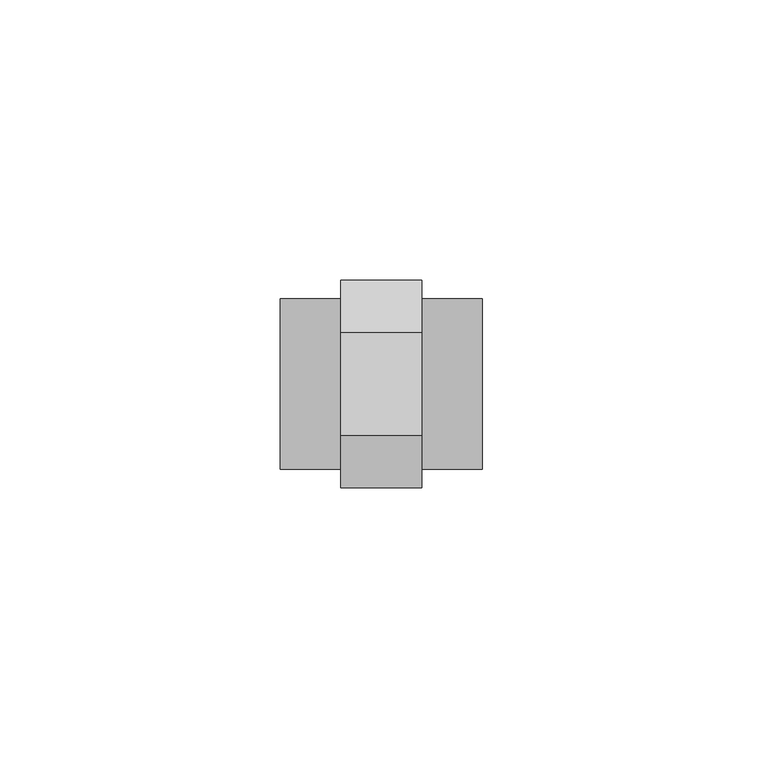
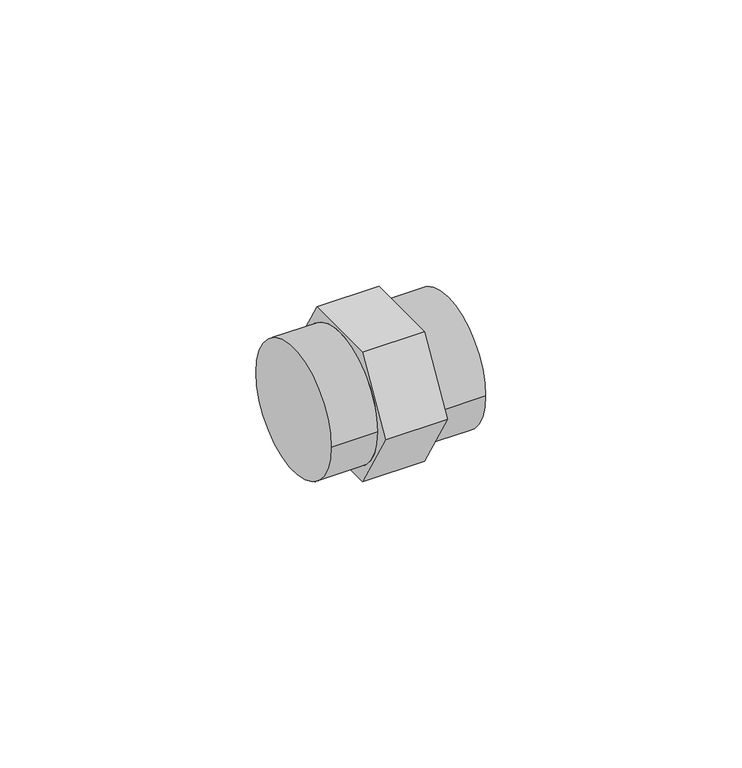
"""IFC4 building model written with IfcOpenShell, lengths in millimetres: pipe fitting geometry, 01101007 : Manchons FxF."""

import ifcopenshell
import ifcopenshell.guid

model = None  # the IFC model being written
_history = None  # IfcOwnerHistory: only IFC2X3 demands one
_inside = {}  # id of a spatial element -> (the spatial element, [elements in it])
_under = {}  # id of a project, library or spatial element -> (it, [spatial elements below it])
_declared = {}  # id of a project -> (the project, [libraries it declares])
_typed = {}  # id of a type object -> (the type object, [elements of that type])
_made_of = {}  # id of a material, layer set ... -> (it, [elements and type objects made of it])


def new_model(schema):
    """Start an empty IFC model of exactly this schema.

    Asked for "IFC4X3", IfcOpenShell would pick the latest addendum, in which some entities
    have other attributes; the version numbers below select the first issue.
    IFC2X3 requires an IfcOwnerHistory on every rooted entity: one is made here for all.
    """
    global model, _history
    if schema == "IFC4X3":
        model = ifcopenshell.file(schema_version=(4, 3, 0, 0))
    else:
        model = ifcopenshell.file(schema=schema)
    _inside.clear()
    _under.clear()
    _declared.clear()
    _typed.clear()
    _made_of.clear()
    _history = None
    if model.schema == "IFC2X3":
        org = make("IfcOrganization", Name="unknown")
        user = make(
            "IfcPersonAndOrganization",
            ThePerson=make("IfcPerson", FamilyName="unknown"),
            TheOrganization=org,
        )
        app = make(
            "IfcApplication",
            ApplicationDeveloper=org,
            Version="unknown",
            ApplicationFullName="unknown",
            ApplicationIdentifier="unknown",
        )
        _history = make(
            "IfcOwnerHistory",
            OwningUser=user,
            OwningApplication=app,
            ChangeAction="ADDED",
            CreationDate=0,
        )
    return model


def make(cls, **values):
    """One entity of the class cls with the attributes given. An attribute that is None is left unset."""
    return model.create_entity(
        cls, **{name: value for name, value in values.items() if value is not None}
    )


def rooted(cls, **values):
    """An entity with a GlobalId (a new one), such as an element, a storey or a relation."""
    return make(cls, GlobalId=ifcopenshell.guid.new(), OwnerHistory=_history, **values)


def si_unit(unit_type, name, prefix=None):
    """IfcSIUnit, for example si_unit("LENGTHUNIT", "METRE", prefix="MILLI")."""
    return make("IfcSIUnit", UnitType=unit_type, Prefix=prefix, Name=name)


def assignment(units):
    """IfcUnitAssignment: the units of a project."""
    return None if units is None else make("IfcUnitAssignment", Units=units)


def point(xyz):
    """IfcCartesianPoint."""
    return None if xyz is None else make("IfcCartesianPoint", Coordinates=xyz)


def direction(xyz):
    """IfcDirection."""
    return None if xyz is None else make("IfcDirection", DirectionRatios=xyz)


def frame(location, z_axis=None, x_axis=None):
    """IfcAxis2Placement3D, a coordinate frame: its origin and axes. An axis left out is left unset."""
    return make(
        "IfcAxis2Placement3D",
        Location=point(location),
        Axis=direction(z_axis),
        RefDirection=direction(x_axis),
    )


def origin():
    """The frame at (0, 0, 0) with its axes left unset."""
    return frame((0.0, 0.0, 0.0))


def place(relative_to, where):
    """IfcLocalPlacement: puts the frame where relative to a parent placement (None: the world)."""
    return make(
        "IfcLocalPlacement", PlacementRelTo=relative_to, RelativePlacement=where
    )


def context(
    kind, dimensions, precision=None, world=None, true_north=None, identifier=None
):
    """IfcGeometricRepresentationContext, for example the 3D "Model" context."""
    return make(
        "IfcGeometricRepresentationContext",
        ContextIdentifier=identifier,
        ContextType=kind,
        CoordinateSpaceDimension=dimensions,
        Precision=precision,
        WorldCoordinateSystem=world,
        TrueNorth=true_north,
    )


def project(units=None, contexts=None):
    """IfcProject with its units and contexts."""
    return rooted(
        "IfcProject",
        Name="project",
        RepresentationContexts=contexts,
        UnitsInContext=assignment(units),
    )


def spatial(cls, under=None, at=None, **own):
    """A site, building, storey or space (cls), placed at a placement, below another one or the project."""
    s = rooted(cls, ObjectPlacement=at, **own)
    if under is not None:
        _under.setdefault(under.id(), (under, []))[1].append(s)
    return s


def circle_curve(where, radius):
    """IfcCircle in the frame where."""
    return make("IfcCircle", Position=where, Radius=radius)


def shape(context_of_items, identifier, shape_type, items):
    """IfcShapeRepresentation: the items that make up one representation, for example the "Body"."""
    return make(
        "IfcShapeRepresentation",
        ContextOfItems=context_of_items,
        RepresentationIdentifier=identifier,
        RepresentationType=shape_type,
        Items=items,
    )


def source(mapping_origin, context_of_items, identifier, shape_type, items):
    """IfcRepresentationMap: a shape defined once, which mapped items show again and again."""
    return make(
        "IfcRepresentationMap",
        MappingOrigin=mapping_origin,
        MappedRepresentation=shape(context_of_items, identifier, shape_type, items),
    )


def transform(
    local_origin,
    x_axis=None,
    y_axis=None,
    z_axis=None,
    scale=None,
    scale2=None,
    scale3=None,
    uniform=True,
):
    """IfcCartesianTransformationOperator3D, or its non-uniform kind. x_axis, y_axis, z_axis: its Axis1, 2, 3."""
    if uniform:
        return make(
            "IfcCartesianTransformationOperator3D",
            Axis1=direction(x_axis),
            Axis2=direction(y_axis),
            LocalOrigin=point(local_origin),
            Scale=scale,
            Axis3=direction(z_axis),
        )
    return make(
        "IfcCartesianTransformationOperator3DnonUniform",
        Axis1=direction(x_axis),
        Axis2=direction(y_axis),
        LocalOrigin=point(local_origin),
        Scale=scale,
        Axis3=direction(z_axis),
        Scale2=scale2,
        Scale3=scale3,
    )


def mapped(mapping_source, mapping_target):
    """IfcMappedItem: shows the shape of a source again, moved by a transform."""
    return make(
        "IfcMappedItem", MappingSource=mapping_source, MappingTarget=mapping_target
    )


def made_of(thing, what):
    """Note that an element or type object is made of a material, layer set ...; save() writes the relation."""
    if what is not None:
        _made_of.setdefault(what.id(), (what, []))[1].append(thing)
    return thing


def element(
    cls,
    number,
    at=None,
    inside=None,
    cuts=None,
    type_object=None,
    material=None,
    context=None,
    identifier="Body",
    shape_type=None,
    held_by="IfcProductDefinitionShape",
    body=None,
    shapes=None,
    **own,
):
    """One element of the class cls, such as IfcWall. Its Tag is "e" and its number.

    at: its placement. inside: the storey or other place that contains it. cuts: it is an
    opening in that element (IfcRelVoidsElement). A single representation is given by context,
    identifier, shape_type and body (its items); several are given by shapes. held_by: the class
    of the entity that holds the representations. save() writes the other relations.
    """
    e = rooted(cls, Tag="e%d" % number, ObjectPlacement=at, **own)
    if body is not None:
        shapes = [shape(context, identifier, shape_type, body)]
    if shapes is not None:
        e.Representation = make(held_by, Representations=shapes)
    if inside is not None:
        _inside.setdefault(inside.id(), (inside, []))[1].append(e)
    if cuts is not None:
        rooted(
            "IfcRelVoidsElement", RelatingBuildingElement=cuts, RelatedOpeningElement=e
        )
    if type_object is not None:
        _typed.setdefault(type_object.id(), (type_object, []))[1].append(e)
    return made_of(e, material)


def aggregate(whole, parts):
    """IfcRelAggregates: a whole, such as a stair, and the parts it consists of."""
    return rooted("IfcRelAggregates", RelatingObject=whole, RelatedObjects=parts)


def save(model, path):
    """Write the relations noted so far, then the file.

    IfcRelAggregates (storeys below a building ...), IfcRelContainedInSpatialStructure (elements
    in a storey), IfcRelDefinesByType, IfcRelAssociatesMaterial and IfcRelDeclares: one each for
    every whole, place, type object, material and project.
    """
    for whole, parts in _under.values():
        aggregate(whole, parts)
    for where, things in _inside.values():
        rooted(
            "IfcRelContainedInSpatialStructure",
            RelatedElements=things,
            RelatingStructure=where,
        )
    for kind, things in _typed.values():
        rooted("IfcRelDefinesByType", RelatedObjects=things, RelatingType=kind)
    for what, things in _made_of.values():
        rooted("IfcRelAssociatesMaterial", RelatedObjects=things, RelatingMaterial=what)
    for by, libraries in _declared.values():
        rooted("IfcRelDeclares", RelatingContext=by, RelatedDefinitions=libraries)
    model.write(path)


def plane_surface(at):
    """IfcPlane: the flat surface through the origin of the frame at, square to its z axis."""
    return make("IfcPlane", Position=at)


def cylinder_surface(at, radius):
    """IfcCylindricalSurface: all points at the distance radius from the z axis of the frame at."""
    return make("IfcCylindricalSurface", Position=at, Radius=radius)


def advanced_brep(points, edges, surfaces, faces):
    """IfcAdvancedBrep: a solid bounded by faces that lie on surfaces and meet in shared edges.

    An edge is (start, end): straight between two places in points (the first is 0);
    or (start, end, curve); or (start, end, curve, False) where it runs against its curve.
    A face is (place in surfaces, loops), or (place, loops, False) where it looks against
    its surface's normal. A loop lists edges by number (the first is 1), with a minus sign
    where the edge is run from its end to its start. The first loop is the outer one.
    """
    corners = [point(p) for p in points]
    vertices = [make("IfcVertexPoint", VertexGeometry=c) for c in corners]
    made = []
    for start, end, *more in edges:
        made.append(
            make(
                "IfcEdgeCurve",
                EdgeStart=vertices[start],
                EdgeEnd=vertices[end],
                EdgeGeometry=more[0] if more else make("IfcPolyline", Points=[corners[start], corners[end]]),
                SameSense=more[1] if len(more) > 1 else True,
            )
        )
    hull = []
    for where, loops, *sense in faces:
        bounds = []
        for j, loop in enumerate(loops):
            ring = [make("IfcOrientedEdge", EdgeElement=made[abs(k) - 1], Orientation=k > 0) for k in loop]
            bounds.append(
                make(
                    "IfcFaceOuterBound" if j == 0 else "IfcFaceBound",
                    Bound=make("IfcEdgeLoop", EdgeList=ring),
                    Orientation=True,
                )
            )
        hull.append(make("IfcAdvancedFace", Bounds=bounds, FaceSurface=surfaces[where], SameSense=sense[0] if sense else True))
    return make("IfcAdvancedBrep", Outer=make("IfcClosedShell", CfsFaces=hull))


def pipe_fitting_b48aa704(model_context):
    return source(origin(), model_context, "Body", "AdvancedBrep", [
        advanced_brep(
        [(7.2, -9.2376043, 16.0), (7.2, -18.4752086, 0.0), (7.2, -9.2376043, -16.0), (7.2, 9.2376043, -16.0), (7.2, 18.4752086, 0.0), (7.2, 9.2376043, 16.0), (7.2, -15.2, 0.0), (7.2, 15.2, 0.0), (-7.2, -9.2376043, 16.0), (-7.2, 9.2376043, 16.0), (-7.2, 18.4752086, 0.0), (-7.2, 9.2376043, -16.0), (-7.2, -9.2376043, -16.0), (-7.2, -18.4752086, 0.0), (-7.2, 15.2, 0.0), (-7.2, -15.2, 0.0), (-18.0, -15.2, 0.0), (-18.0, 15.2, 0.0), (18.0, -15.2, 0.0), (18.0, 15.2, 0.0)],
        [
            (0, 1),
            (1, 2),
            (2, 3),
            (3, 4),
            (4, 5),
            (5, 0),
            (6, 7, circle_curve(frame((7.2, 0.0, 0.0), z_axis=(-1.0, 0.0, 0.0), x_axis=(0.0, 1.0, 0.0)), 15.2)),
            (7, 6, circle_curve(frame((7.2, 0.0, 0.0), z_axis=(-1.0, 0.0, 0.0), x_axis=(0.0, 1.0, 0.0)), 15.2)),
            (8, 9),
            (9, 10),
            (10, 11),
            (11, 12),
            (12, 13),
            (13, 8),
            (14, 15, circle_curve(frame((-7.2, 0.0, 0.0), z_axis=(1.0, 0.0, 0.0), x_axis=(0.0, 1.0, 0.0)), 15.2)),
            (15, 14, circle_curve(frame((-7.2, 0.0, 0.0), z_axis=(1.0, 0.0, 0.0), x_axis=(0.0, 1.0, 0.0)), 15.2)),
            (0, 8),
            (13, 1),
            (12, 2),
            (11, 3),
            (10, 4),
            (9, 5),
            (16, 17, circle_curve(frame((-18.0, 0.0, 0.0), z_axis=(-1.0, 0.0, 0.0), x_axis=(0.0, 1.0, 0.0)), 15.2)),
            (17, 16, circle_curve(frame((-18.0, 0.0, 0.0), z_axis=(-1.0, 0.0, 0.0), x_axis=(0.0, 1.0, 0.0)), 15.2)),
            (18, 19, circle_curve(frame((18.0, 0.0, 0.0), z_axis=(1.0, 0.0, 0.0), x_axis=(0.0, 1.0, 0.0)), 15.2)),
            (19, 18, circle_curve(frame((18.0, 0.0, 0.0), z_axis=(1.0, 0.0, 0.0), x_axis=(0.0, 1.0, 0.0)), 15.2)),
            (16, 15),
            (14, 17),
            (19, 7),
            (6, 18),
        ],
        [
            plane_surface(frame((7.2, -9.2376043, 16.0), z_axis=(1.0, 0.0, 0.0), x_axis=(0.0, -0.5000000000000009, -0.8660254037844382))),
            plane_surface(frame((-7.2, -9.2376043, 16.0), z_axis=(-1.0, 0.0, 0.0), x_axis=(0.0, 0.5000000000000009, 0.8660254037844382))),
            plane_surface(frame((7.2, -9.2376043, 16.0), z_axis=(0.0, -0.8660254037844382, 0.5000000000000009), x_axis=(-1.0, 0.0, 0.0))),
            plane_surface(frame((7.2, -18.4752086, 0.0), z_axis=(0.0, -0.8660254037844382, -0.5000000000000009), x_axis=(-1.0, 0.0, 0.0))),
            plane_surface(frame((7.2, -9.2376043, -16.0), z_axis=(0.0, 0.0, -1.0), x_axis=(-1.0, 0.0, 0.0))),
            plane_surface(frame((7.2, 9.2376043, -16.0), z_axis=(0.0, 0.8660254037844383, -0.5000000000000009), x_axis=(-1.0, 0.0, 0.0))),
            plane_surface(frame((7.2, 18.4752086, 0.0), z_axis=(0.0, 0.8660254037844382, 0.5000000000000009), x_axis=(-1.0, 0.0, 0.0))),
            plane_surface(frame((7.2, 9.2376043, 16.0), z_axis=(0.0, 0.0, 1.0), x_axis=(-1.0, 0.0, 0.0))),
            plane_surface(frame((-18.0, 0.0, 0.0), z_axis=(-1.0, 0.0, 0.0), x_axis=(0.0, 0.0, 1.0))),
            plane_surface(frame((18.0, 0.0, 0.0), z_axis=(1.0, 0.0, 0.0), x_axis=(0.0, 0.0, 1.0))),
            cylinder_surface(frame((-18.0, 0.0, 0.0), z_axis=(-1.0, 0.0, 0.0), x_axis=(0.0, 1.0, 0.0)), 15.2),
        ],
        [
            (0, [[1, 2, 3, 4, 5, 6], [7, 8]]),
            (1, [[9, 10, 11, 12, 13, 14], [15, 16]]),
            (2, [[-1, 17, -14, 18]]),
            (3, [[-2, -18, -13, 19]]),
            (4, [[-3, -19, -12, 20]]),
            (5, [[-4, -20, -11, 21]]),
            (6, [[-5, -21, -10, 22]]),
            (7, [[-6, -22, -9, -17]]),
            (8, [[23, 24]]),
            (9, [[25, 26]]),
            (10, [[-23, 27, -15, 28]]),
            (10, [[-26, 29, -7, 30]]),
            (10, [[-24, -28, -16, -27]]),
            (10, [[-25, -30, -8, -29]]),
        ],
    ),
    ])


if __name__ == "__main__":
    model = new_model("IFC4")
    model_context = context("Model", 3, world=origin())
    ifc_project = project(units=[si_unit("LENGTHUNIT", "METRE", prefix="MILLI")], contexts=[model_context])
    site = spatial("IfcSite", under=ifc_project)
    building = spatial("IfcBuilding", under=site)
    placement = place(None, origin())
    pipe_fitting_shape = pipe_fitting_b48aa704(model_context)
    element("IfcPipeFitting", 1, ObjectType="01101007 : Manchons FxF", at=placement, inside=building, context=model_context, shape_type="MappedRepresentation", body=[
        mapped(pipe_fitting_shape, transform((0.0, 0.0, 0.0), x_axis=(1.0, 0.0, 0.0), y_axis=(0.0, 1.0, 0.0), z_axis=(0.0, 0.0, 1.0))),
    ])
    save(model, "model.ifc")
